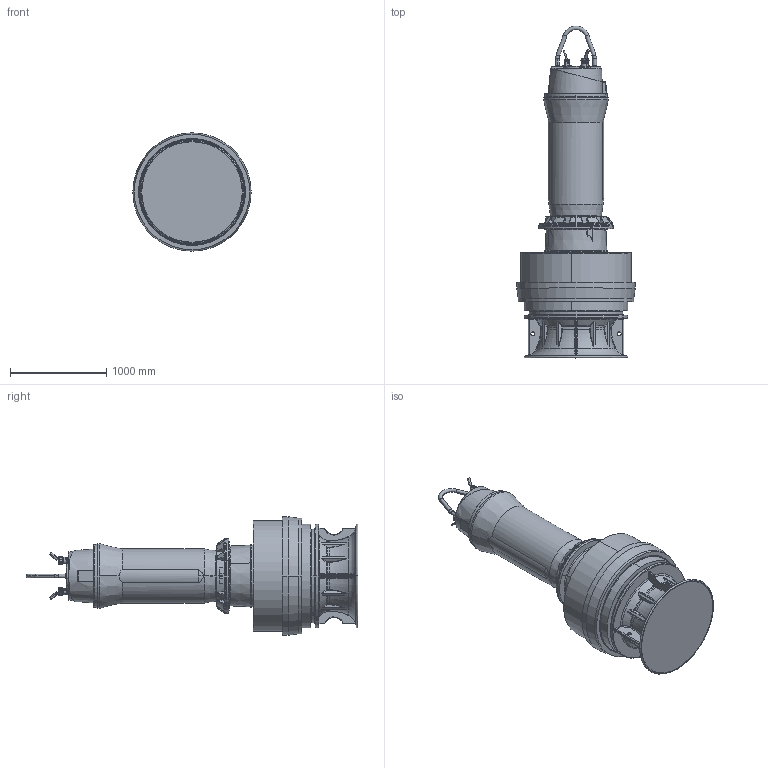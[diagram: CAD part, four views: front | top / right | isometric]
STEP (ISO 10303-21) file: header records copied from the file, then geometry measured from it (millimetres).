
FILE_DESCRIPTION (( 'STEP AP214' ), '1' );
FILE_NAME ('PE7_AFLX1202G3_STD_B.STEP', '2017-05-10T08:24:43', ( '' ), ( '' ), 'SwSTEP 2.0', 'SolidWorks 2017', '' );
FILE_SCHEMA (( 'AUTOMOTIVE_DESIGN' ));
Length unit declared in the file: millimetre
Products named in the file (1): PE7_AFLX1202G3_STD_B
Bounding box: 1230 x 3449.8 x 1230 mm (x, y, z)
Volume: 1430760924.9 mm3; surface area: 13169951.8 mm2
Topology: 3 solids, 22 shells, 3005 faces, 7236 edges, 4155 vertices
Faces by surface type: bspline 915, plane 702, cylinder 606, torus 362, cone 297, sphere 123
Entity records: 168350 total; most frequent: CARTESIAN_POINT 73056, ORIENTED_EDGE 14084, DIRECTION 11555, EDGE_CURVE 7042, AXIS2_PLACEMENT_3D 4743, VERTEX_POINT 4154, EDGE_LOOP 3140, UNCERTAINTY_MEASURE_WITH_UNIT 3010
